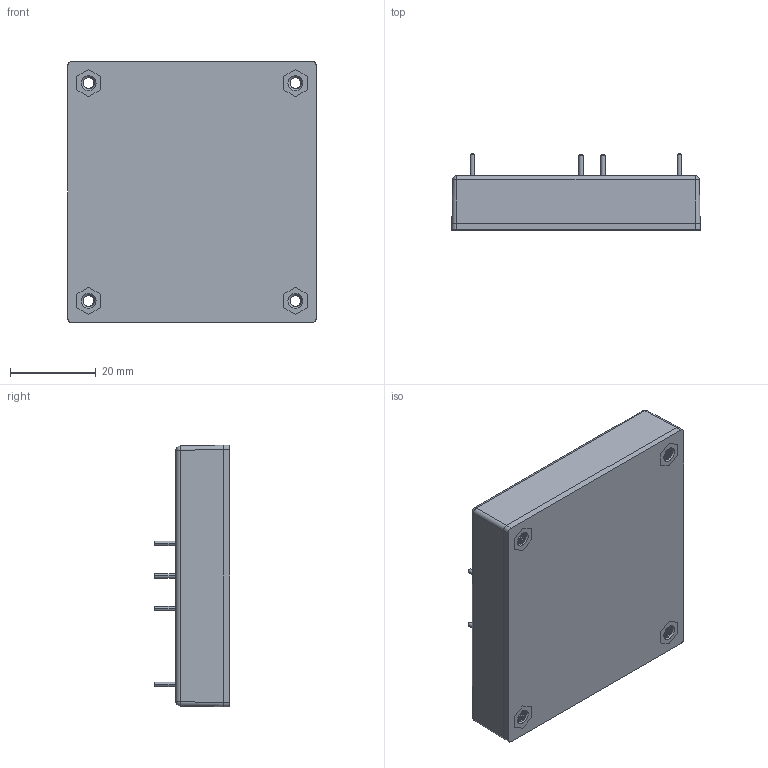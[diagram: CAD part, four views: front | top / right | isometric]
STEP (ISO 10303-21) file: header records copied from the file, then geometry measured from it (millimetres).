
FILE_DESCRIPTION (( 'STEP AP214' ), '1' );
FILE_NAME ('PFC750 ¦¨«~¹Ï-1081213.STEP', '2022-03-04T02:45:09', ( '' ), ( '' ), 'SwSTEP 2.0', 'SolidWorks 2020', '' );
FILE_SCHEMA (( 'AUTOMOTIVE_DESIGN' ));
Length unit declared in the file: millimetre
Products named in the file (7): CHB150W,200W,350 CASE HB-9(M-C520-04-M)G5119310012,G5114510012; CHB150-110SXX 鋁板(M-C560-01-J)G6611411617,G6611421617; PFC750 成品圖-1081213; CHB150-110XX M3x12.6mm 六角銅柱(M-C560-01-J); PFC750 側環BASE-1081213; (上傳用)PFC PCB板示意圖-1110304
Assembly tree (9 placements, depth 3):
  PFC750 成品圖-1081213
    CHB150-110SXX 鋁板(M-C560-01-J)G6611411617,G6611421617
      CHB150-110SXX 鋁板(M-C560-01-J)G6611411617,G6611421617
      CHB150-110XX M3x12.6mm 六角銅柱(M-C560-01-J)  x4
    CHB150W,200W,350 CASE HB-9(M-C520-04-M)G5119310012,G5114510012
    PFC750 側環BASE-1081213
    (上傳用)PFC PCB板示意圖-1110304
Bounding box: 57.9 x 17.7 x 61 mm (x, y, z)
Volume: 41333.9 mm3; surface area: 29997.3 mm2
Topology: 8 solids, 8 shells, 676 faces, 1776 edges, 1163 vertices
Faces by surface type: cylinder 343, plane 240, cone 78, bspline 11, sphere 4
Entity records: 16711 total; most frequent: CARTESIAN_POINT 5303, ORIENTED_EDGE 2362, DIRECTION 2263, EDGE_CURVE 1181, AXIS2_PLACEMENT_3D 776, VERTEX_POINT 770, VECTOR 711, LINE 711
